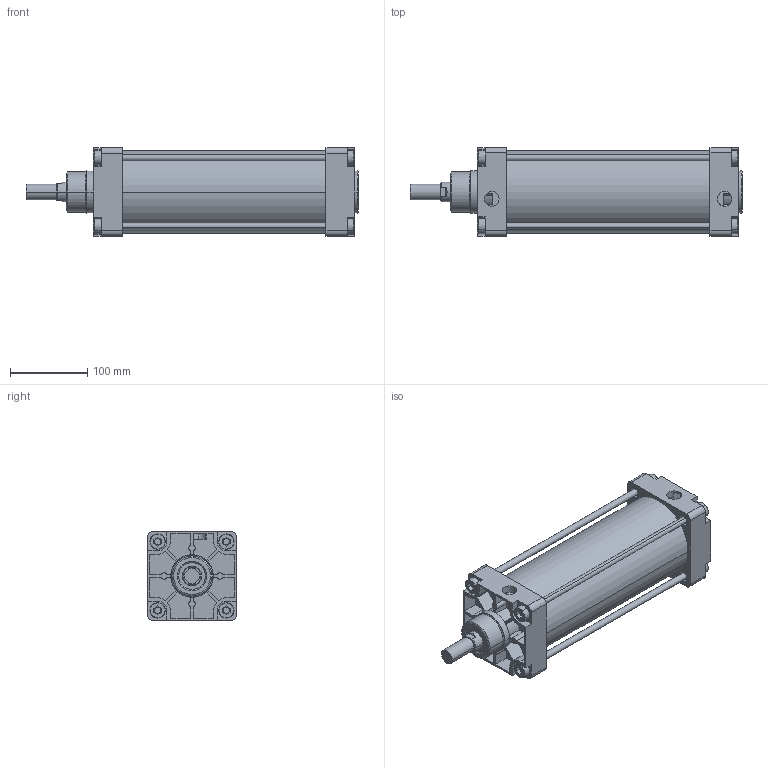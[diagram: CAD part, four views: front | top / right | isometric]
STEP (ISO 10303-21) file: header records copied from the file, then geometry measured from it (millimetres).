
FILE_DESCRIPTION(('CATIA V5 STEP Exchange'),'2;1');
FILE_NAME('D:\stp file for catalog\PNC\100\PNC 100-25-200.stp','2015-10-20T05:57:19+00:00',('none'),('none'),'Version 5-6 Release 2012','CATIA V5 STEP AP203','none');
FILE_SCHEMA(('CONFIG_CONTROL_DESIGN'));
Length unit declared in the file: millimetre
Products named in the file (1): PNC 100-25-200-00
Assembly tree (2 placements, depth 2):
  PNC 100-25-200-00
    #58
    #14124
Bounding box: 430.5 x 115 x 115 mm (x, y, z)
Volume: 1738495.5 mm3; surface area: 411716.9 mm2
Topology: 6 solids, 6 shells, 534 faces, 1388 edges, 914 vertices
Faces by surface type: plane 336, cylinder 166, torus 26, cone 6
Entity records: 14648 total; most frequent: ORIENTED_EDGE 2776, CARTESIAN_POINT 2587, DIRECTION 1886, EDGE_CURVE 1388, VECTOR 922, LINE 922, VERTEX_POINT 914, AXIS2_PLACEMENT_3D 711
